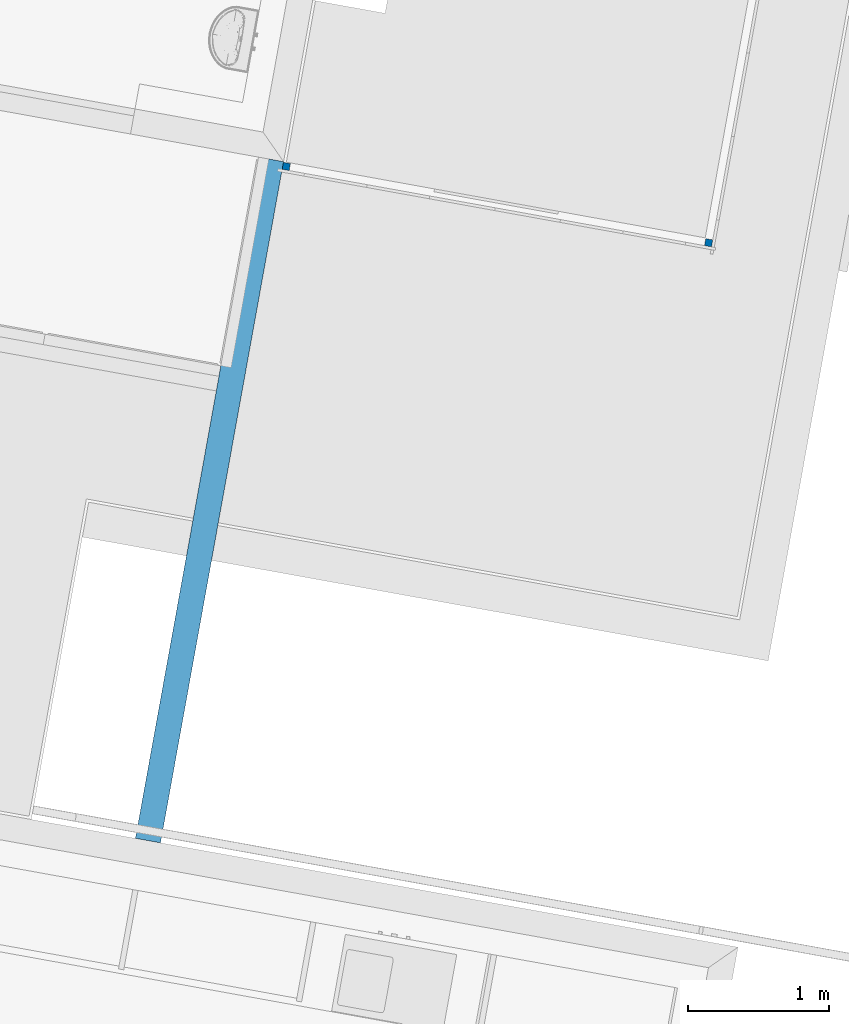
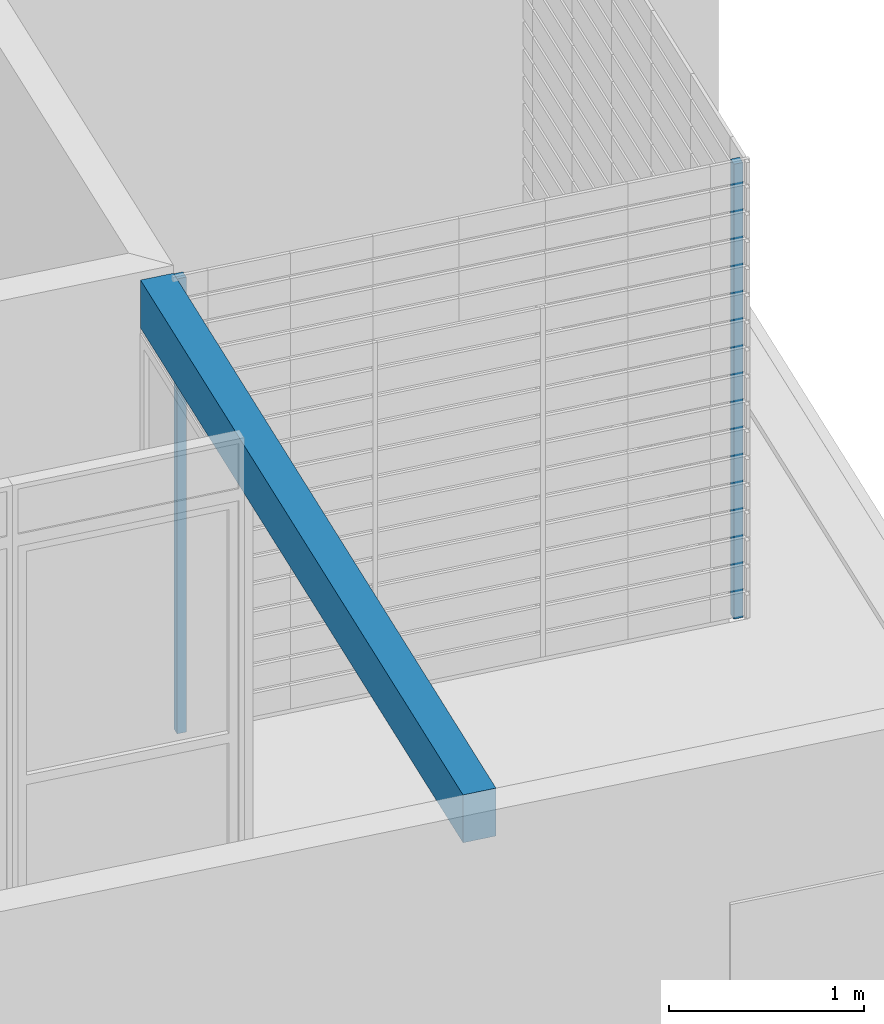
# One storey, part 1 of 52: 2 columns, 1 beam.
"""IFC2X3 building model written with IfcOpenShell, lengths in metres."""

from ifc_helpers import new_model, entity, si_unit, converted_unit, derived_unit, money_unit, direction, frame, frame_2d, origin_with_axes, origin_2d_with_axis, place, context, subcontext, project, spatial, rectangle, extrude, material, type_object, element, save


model = new_model("IFC2X3")

# Units and contexts
model_context = context("Model", 3, precision=1e-05, world=origin_with_axes(), true_north=direction((0.0, 1.0)))
body_context = subcontext(model_context, "Body", "Model", "MODEL_VIEW")
ifc_project = project(units=[si_unit("LENGTHUNIT", "METRE"), si_unit("AREAUNIT", "SQUARE_METRE"), si_unit("VOLUMEUNIT", "CUBIC_METRE"), converted_unit("PLANEANGLEUNIT", "DEGREE", entity("IfcPlaneAngleMeasure", 0.0174532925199), si_unit("PLANEANGLEUNIT", "RADIAN"), dimensions=[0, 0, 0, 0, 0, 0, 0]), money_unit("CHF"), converted_unit("TIMEUNIT", "Year", entity("IfcTimeMeasure", 31556926.0), si_unit("TIMEUNIT", "SECOND"), dimensions=[0, 0, 1, 0, 0, 0, 0]), si_unit("MASSUNIT", "GRAM", prefix="KILO"), si_unit("THERMODYNAMICTEMPERATUREUNIT", "DEGREE_CELSIUS"), si_unit("LUMINOUSINTENSITYUNIT", "LUMEN"), si_unit("ENERGYUNIT", "JOULE", prefix="MEGA"), derived_unit("THERMALCONDUCTANCEUNIT", [(si_unit("POWERUNIT", "WATT"), 1), (si_unit("LENGTHUNIT", "METRE"), -1), (si_unit("THERMODYNAMICTEMPERATUREUNIT", "KELVIN"), -1)]), derived_unit("SPECIFICHEATCAPACITYUNIT", [(si_unit("ENERGYUNIT", "JOULE"), 1), (si_unit("MASSUNIT", "GRAM", prefix="KILO"), -1), (si_unit("THERMODYNAMICTEMPERATUREUNIT", "KELVIN"), -1)]), derived_unit("MASSDENSITYUNIT", [(si_unit("MASSUNIT", "GRAM", prefix="KILO"), 1), (si_unit("VOLUMEUNIT", "CUBIC_METRE"), -1)])], contexts=[model_context])

# Site, building, storey
site_placement = place(None, frame((0.0, 0.0, 0.0), z_axis=(0.0, 0.0, 1.0), x_axis=(-0.177771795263, -0.984071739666, 0.0)))
site = spatial("IfcSite", under=ifc_project, at=site_placement, Name="Site", CompositionType="ELEMENT")
building_placement = place(site_placement, origin_with_axes())
building = spatial("IfcBuilding", under=site, at=building_placement, Name="Bâtiment", CompositionType="ELEMENT")
storey_placement = place(building_placement, frame((0.0, 0.0, 3.2), z_axis=(0.0, 0.0, 1.0), x_axis=(1.0, 0.0, 0.0)))
storey = spatial("IfcBuildingStorey", under=building, at=storey_placement, Name="R+1", CompositionType="ELEMENT", Elevation=3.2)

# Columns
ifc_material_1 = material(Name="Bois - Equarri 02")
column_type = type_object("IfcColumnType", Name="Bois - Equarri 02 50 x 50", PredefinedType="NOTDEFINED")
for number, where, z_axis, x_axis, name in (
    (1, (141.324841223, -149.207151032, 0.0), (0.0, 0.0, 1.0), (1.0, 0.0, 0.0), "tasseau pare-vue"),
    (2, (141.324841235, -152.24215096, 0.0), (0.0, 0.0, 1.0), (1.0, 0.0, 0.0), "tasseau pare-vue"),
):
    element("IfcColumn", number, at=place(storey_placement, frame(where, z_axis=z_axis, x_axis=x_axis)), inside=storey, type_object=column_type, material=ifc_material_1, Name=name, ObjectType="COLUMN", context=body_context, shape_type="SweptSolid", body=[
        extrude(rectangle(XDim=0.05, YDim=0.05, at=origin_2d_with_axis()), origin_with_axes(), (0.0, 0.0, 1.0), 2.85),
    ])

# Beam
ifc_material_2 = material(Name="_BA banché RAL9007")
beam_type = type_object("IfcBeamType", Name="_BA banché RAL9007 180 x 300", PredefinedType="NOTDEFINED")
beam_placement = place(storey_placement, frame((146.189841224, -152.35715096, 2.85), z_axis=(0.0, 0.0, 1.0), x_axis=(0.0, 1.0, 0.0)))
element("IfcBeam", 3, at=beam_placement, inside=storey, type_object=beam_type, material=ifc_material_2, Name="POUTRE", ObjectType="BEAM", context=body_context, shape_type="SweptSolid", body=[
    extrude(rectangle(XDim=0.3, YDim=0.18, at=frame_2d((-0.15, 0.0), x_axis=(1.0, 0.0))), frame((0.0, 0.0, 0.0), z_axis=(0.0, 1.0, 0.0), x_axis=(0.0, 0.0, 1.0)), (0.0, 0.0, 1.0), 4.89500082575),
])

save(model, "model.ifc")
